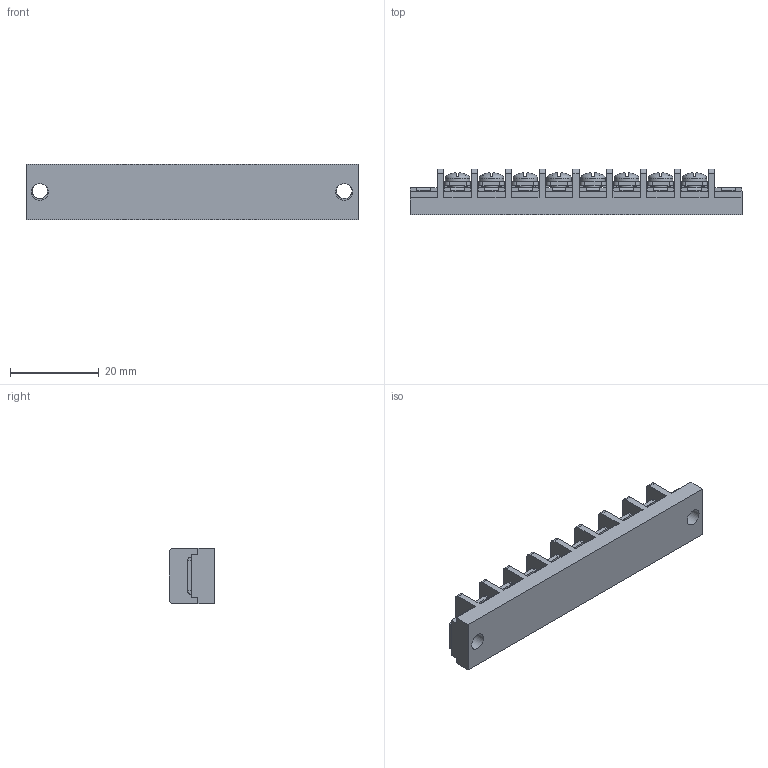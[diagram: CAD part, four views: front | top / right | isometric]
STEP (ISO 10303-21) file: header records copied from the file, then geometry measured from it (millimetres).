
FILE_DESCRIPTION(/* description */ ('Alibre Inc.'),/* implementation_level */ '2;1');
FILE_NAME(/* name */ 'export0',/* time_stamp */ '2015-10-26T18:12:50+09:00',/* author */ (''),/* organization */ (''),/* preprocessor_version */ 'ST-DEVELOPER v14',/* originating_system */ 'Alibre',/* authorisation */ '');
FILE_SCHEMA (('CONFIG_CONTROL_DESIGN'));
Length unit declared in the file: centimetre
Products named in the file (1): ID_1
Bounding box: 74.78 x 10.3 x 12.5 mm (x, y, z)
Volume: 6353.2 mm3; surface area: 5659 mm2
Topology: 1 solids, 17 shells, 1180 faces, 3224 edges, 2124 vertices
Faces by surface type: plane 914, bspline 104, cylinder 98, cone 32, torus 16, sphere 16
Full cylindrical faces by diameter (mm): 3 x8, 3.5 x2, 3.8 x2, 5.5 x8
Entity records: 35393 total; most frequent: CARTESIAN_POINT 7925, ORIENTED_EDGE 6304, DIRECTION 4302, EDGE_CURVE 3152, VECTOR 2256, LINE 2256, VERTEX_POINT 2088, AXIS2_PLACEMENT_3D 1437
